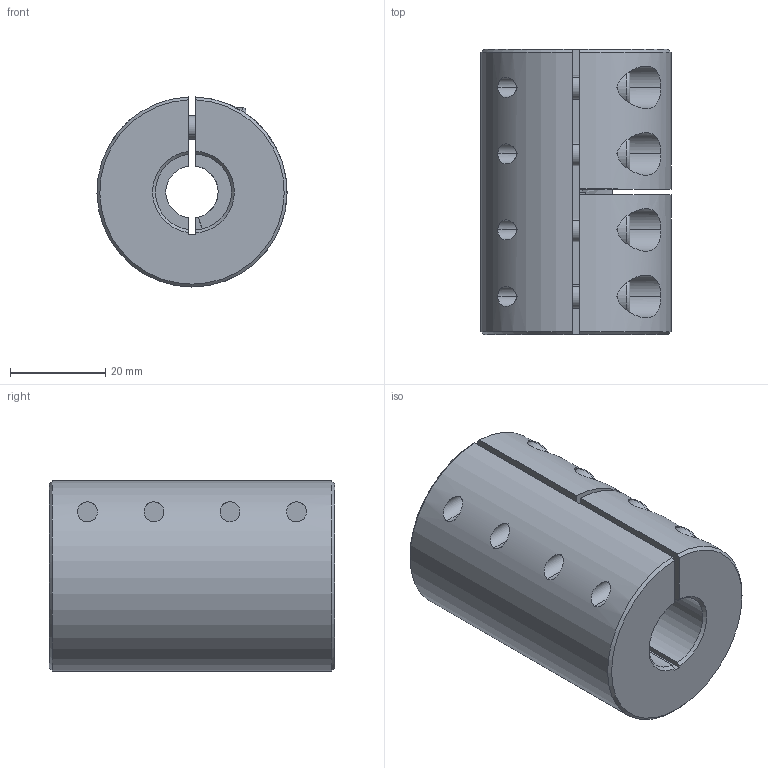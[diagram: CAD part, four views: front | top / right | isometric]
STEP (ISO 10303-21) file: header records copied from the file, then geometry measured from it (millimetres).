
FILE_DESCRIPTION (( 'STEP AP214' ), '1' );
FILE_NAME ('LL-B-D40L60-11-16½¨Ä£.STEP', '2022-07-22T00:56:35', ( '' ), ( '' ), 'SwSTEP 2.0', 'SolidWorks 2022', '' );
FILE_SCHEMA (( 'AUTOMOTIVE_DESIGN' ));
Length unit declared in the file: millimetre
Products named in the file (1): LL-B-D40L60-11-16膘耀
Bounding box: 40 x 60 x 39.99 mm (x, y, z)
Volume: 63060.5 mm3; surface area: 17425.7 mm2
Topology: 1 solids, 1 shells, 182 faces, 463 edges, 291 vertices
Faces by surface type: plane 88, cylinder 71, cone 15, torus 8
Entity records: 6015 total; most frequent: CARTESIAN_POINT 1525, DIRECTION 971, ORIENTED_EDGE 910, EDGE_CURVE 455, AXIS2_PLACEMENT_3D 377, VERTEX_POINT 291, VECTOR 217, LINE 217
